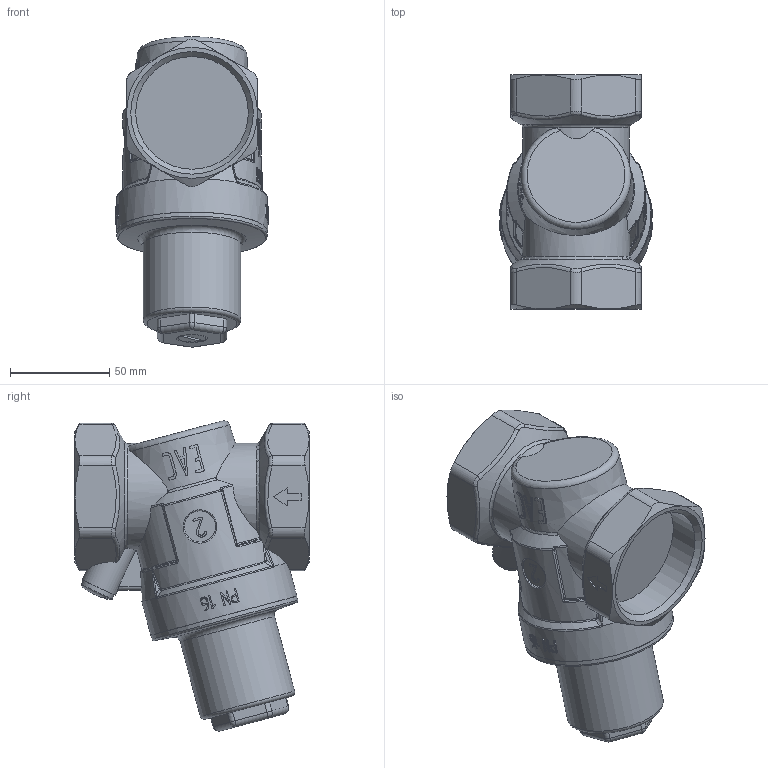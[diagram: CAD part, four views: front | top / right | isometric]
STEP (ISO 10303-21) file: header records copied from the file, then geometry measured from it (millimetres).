
FILE_DESCRIPTION(('STEP AP203'), '1');
FILE_NAME('VT.089.N.10 - Ðåä. äàâ. ìåìá. ðåã. DN50 ñ óâ. ðàñõ', '2024-04-22T11:11:02', ('User'), ('Vesta'), 'C3D Converter', 'C3D Toolkit', '');
FILE_SCHEMA(('CONFIG_CONTROL_DESIGN'));
Length unit declared in the file: millimetre
Products named in the file (1): VT.089.N.10
Bounding box: 77.14 x 118 x 156.47 mm (x, y, z)
Volume: 556616.2 mm3; surface area: 59074.8 mm2
Topology: 1 solids, 1 shells, 732 faces, 1953 edges, 1250 vertices
Faces by surface type: extrusion 268, plane 239, bspline 83, cylinder 75, cone 32, torus 29, sphere 6
Full cylindrical faces by diameter (mm): 17 x1, 18.4 x1, 49.2 x1, 56.8 x2, 76 x1, 76.2 x1
Entity records: 44662 total; most frequent: CARTESIAN_POINT 28646, ORIENTED_EDGE 3856, DIRECTION 2230, EDGE_CURVE 1928, VERTEX_POINT 1249, B_SPLINE_CURVE_WITH_KNOTS 1143, VECTOR 970, EDGE_LOOP 781
